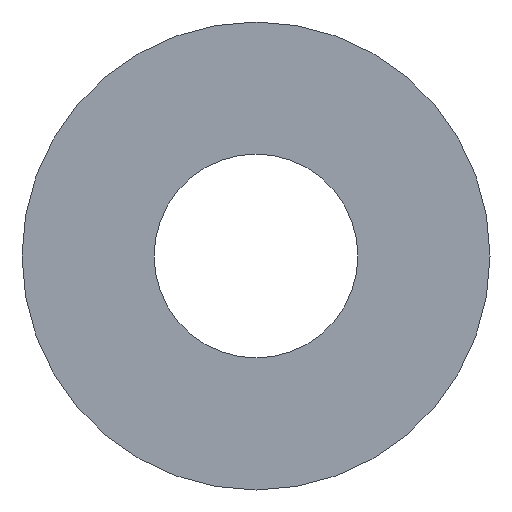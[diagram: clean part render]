
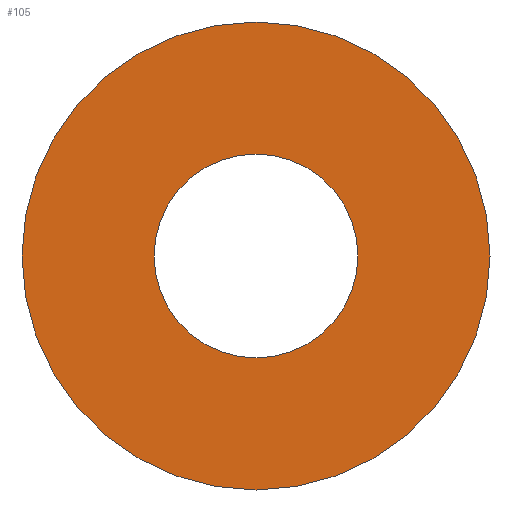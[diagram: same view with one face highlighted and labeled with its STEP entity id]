
A CAD part, front view. The second image highlights one B-rep face of the part: STEP entity #105.
In plain terms, the highlighted planar face has unit normal (0, -1, 0).
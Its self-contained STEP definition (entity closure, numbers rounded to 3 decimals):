
#22 = VERTEX_POINT('',#23);
#23 = CARTESIAN_POINT('',(7.,-42.,0.));
#32 = CYLINDRICAL_SURFACE('',#33,7.);
#33 = AXIS2_PLACEMENT_3D('',#34,#35,#36);
#34 = CARTESIAN_POINT('',(0.,-42.,0.));
#35 = DIRECTION('',(0.,-1.,-0.));
#36 = DIRECTION('',(1.,0.,0.));
#79 = EDGE_CURVE('',#22,#22,#80,.T.);
#80 = SURFACE_CURVE('',#81,(#86,#93),.PCURVE_S1.);
#81 = CIRCLE('',#82,7.);
#82 = AXIS2_PLACEMENT_3D('',#83,#84,#85);
#83 = CARTESIAN_POINT('',(0.,-42.,0.));
#84 = DIRECTION('',(-0.,1.,0.));
#85 = DIRECTION('',(1.,0.,0.));
#86 = PCURVE('',#32,#87);
#87 = DEFINITIONAL_REPRESENTATION('',(#88),#92);
#88 = LINE('',#89,#90);
#89 = CARTESIAN_POINT('',(-0.,0.));
#90 = VECTOR('',#91,1.);
#91 = DIRECTION('',(-1.,0.));
#92 = ( GEOMETRIC_REPRESENTATION_CONTEXT(2) 
PARAMETRIC_REPRESENTATION_CONTEXT() REPRESENTATION_CONTEXT('2D SPACE',''
  ) );
#93 = PCURVE('',#94,#99);
#94 = PLANE('',#95);
#95 = AXIS2_PLACEMENT_3D('',#96,#97,#98);
#96 = CARTESIAN_POINT('',(0.,-42.,0.)
  );
#97 = DIRECTION('',(0.,1.,0.));
#98 = DIRECTION('',(0.,-0.,1.));
#99 = DEFINITIONAL_REPRESENTATION('',(#100),#104);
#100 = CIRCLE('',#101,7.);
#101 = AXIS2_PLACEMENT_2D('',#102,#103);
#102 = CARTESIAN_POINT('',(0.,0.));
#103 = DIRECTION('',(0.,1.));
#104 = ( GEOMETRIC_REPRESENTATION_CONTEXT(2) 
PARAMETRIC_REPRESENTATION_CONTEXT() REPRESENTATION_CONTEXT('2D SPACE',''
  ) );
#105 = ADVANCED_FACE('',(#106,#109),#94,.F.);
#106 = FACE_BOUND('',#107,.F.);
#107 = EDGE_LOOP('',(#108));
#108 = ORIENTED_EDGE('',*,*,#79,.T.);
#109 = FACE_BOUND('',#110,.F.);
#110 = EDGE_LOOP('',(#111));
#111 = ORIENTED_EDGE('',*,*,#112,.T.);
#112 = EDGE_CURVE('',#113,#113,#115,.T.);
#113 = VERTEX_POINT('',#114);
#114 = CARTESIAN_POINT('',(3.05,-42.,0.));
#115 = SURFACE_CURVE('',#116,(#121,#132),.PCURVE_S1.);
#116 = CIRCLE('',#117,3.05);
#117 = AXIS2_PLACEMENT_3D('',#118,#119,#120);
#118 = CARTESIAN_POINT('',(0.,-42.,0.));
#119 = DIRECTION('',(0.,-1.,-0.));
#120 = DIRECTION('',(1.,0.,0.));
#121 = PCURVE('',#94,#122);
#122 = DEFINITIONAL_REPRESENTATION('',(#123),#131);
#123 = ( BOUNDED_CURVE() B_SPLINE_CURVE(2,(#124,#125,#126,#127,#128,#129
,#130),.UNSPECIFIED.,.T.,.F.) B_SPLINE_CURVE_WITH_KNOTS((1,2,2,2,2,1),(
    -2.094,0.,2.094,4.189,6.283,
8.378),.UNSPECIFIED.) CURVE() GEOMETRIC_REPRESENTATION_ITEM() 
RATIONAL_B_SPLINE_CURVE((1.,0.5,1.,0.5,1.,0.5,1.)) REPRESENTATION_ITEM(
  '') );
#124 = CARTESIAN_POINT('',(0.,3.05));
#125 = CARTESIAN_POINT('',(5.283,3.05));
#126 = CARTESIAN_POINT('',(2.641,-1.525));
#127 = CARTESIAN_POINT('',(0.,-6.1));
#128 = CARTESIAN_POINT('',(-2.641,-1.525));
#129 = CARTESIAN_POINT('',(-5.283,3.05));
#130 = CARTESIAN_POINT('',(0.,3.05));
#131 = ( GEOMETRIC_REPRESENTATION_CONTEXT(2) 
PARAMETRIC_REPRESENTATION_CONTEXT() REPRESENTATION_CONTEXT('2D SPACE',''
  ) );
#132 = PCURVE('',#133,#138);
#133 = CYLINDRICAL_SURFACE('',#134,3.05);
#134 = AXIS2_PLACEMENT_3D('',#135,#136,#137);
#135 = CARTESIAN_POINT('',(0.,-43.5,0.));
#136 = DIRECTION('',(0.,-1.,-0.));
#137 = DIRECTION('',(1.,0.,0.));
#138 = DEFINITIONAL_REPRESENTATION('',(#139),#143);
#139 = LINE('',#140,#141);
#140 = CARTESIAN_POINT('',(-6.283,-1.5));
#141 = VECTOR('',#142,1.);
#142 = DIRECTION('',(1.,-0.));
#143 = ( GEOMETRIC_REPRESENTATION_CONTEXT(2) 
PARAMETRIC_REPRESENTATION_CONTEXT() REPRESENTATION_CONTEXT('2D SPACE',''
  ) );
